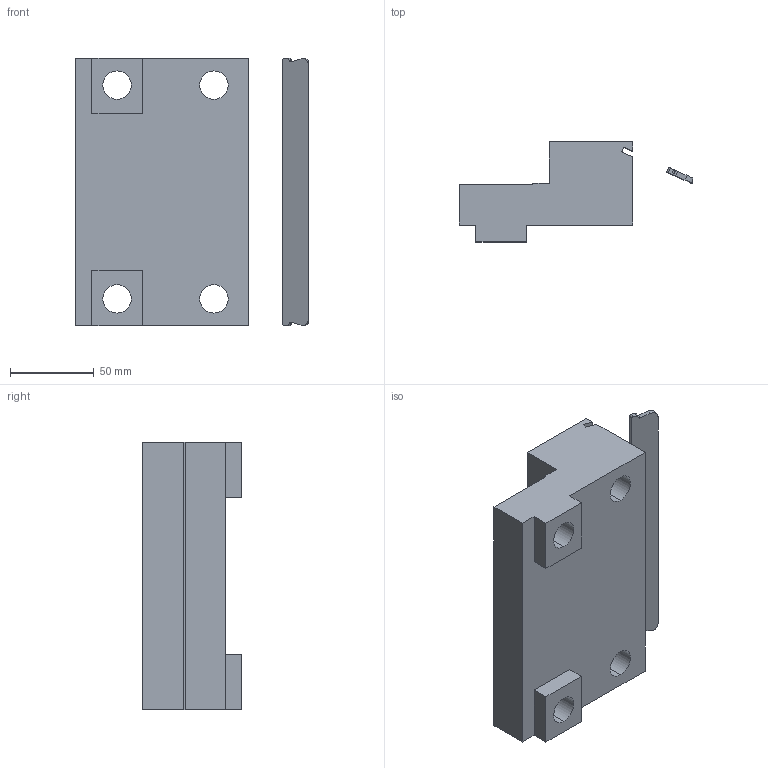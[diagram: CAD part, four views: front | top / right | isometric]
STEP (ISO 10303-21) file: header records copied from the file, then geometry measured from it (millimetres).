
FILE_DESCRIPTION (( 'STEP AP203' ), '1' );
FILE_NAME ('6921704106040_Niederzugbacke_NC160_Fix.STEP', '2009-03-12T10:29:28', ( 'Markus Römer' ), ( '' ), 'SwSTEP 2.0', 'SolidWorks 2008', '' );
FILE_SCHEMA (( 'CONFIG_CONTROL_DESIGN' ));
Length unit declared in the file: millimetre
Products named in the file (1): 6921704106040_Niederzugbacke_NC160_Fix
Bounding box: 139.76 x 59.8 x 160.4 mm (x, y, z)
Volume: 575319 mm3; surface area: 76838.5 mm2
Topology: 2 solids, 2 shells, 60 faces, 156 edges, 104 vertices
Faces by surface type: plane 36, cylinder 24
Entity records: 1939 total; most frequent: CARTESIAN_POINT 327, DIRECTION 324, ORIENTED_EDGE 312, EDGE_CURVE 156, AXIS2_PLACEMENT_3D 109, VECTOR 106, LINE 106, VERTEX_POINT 104
